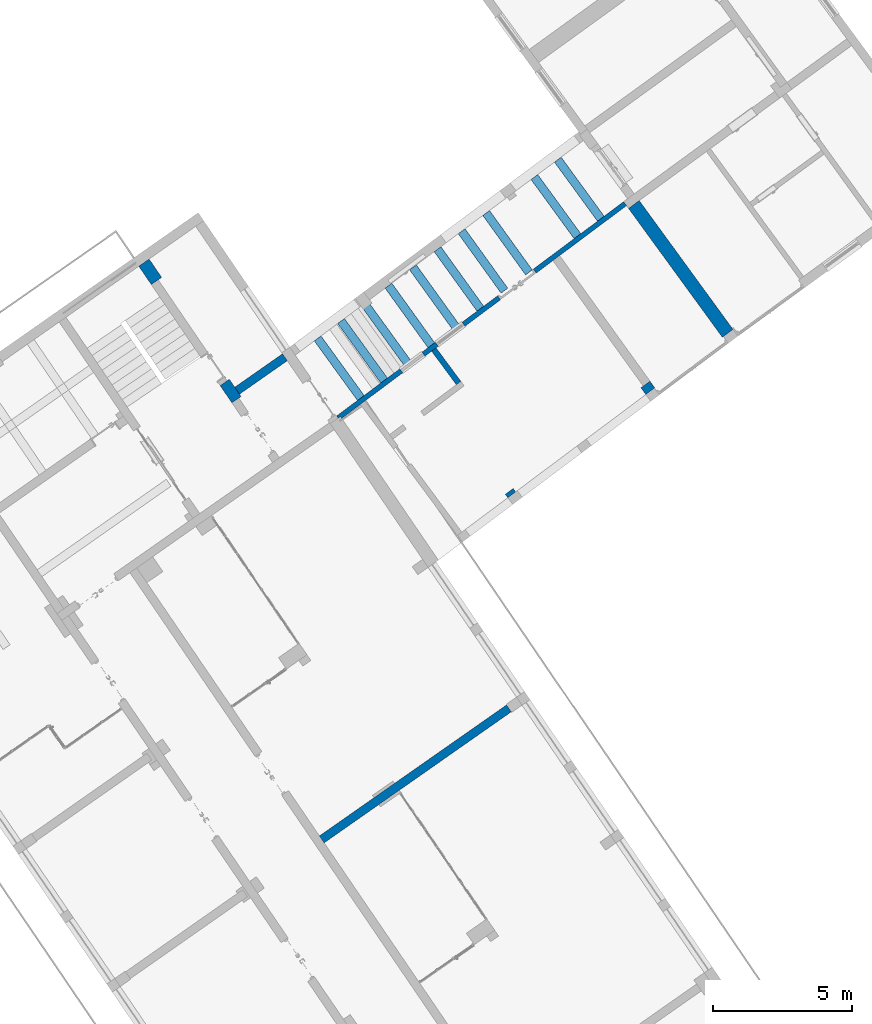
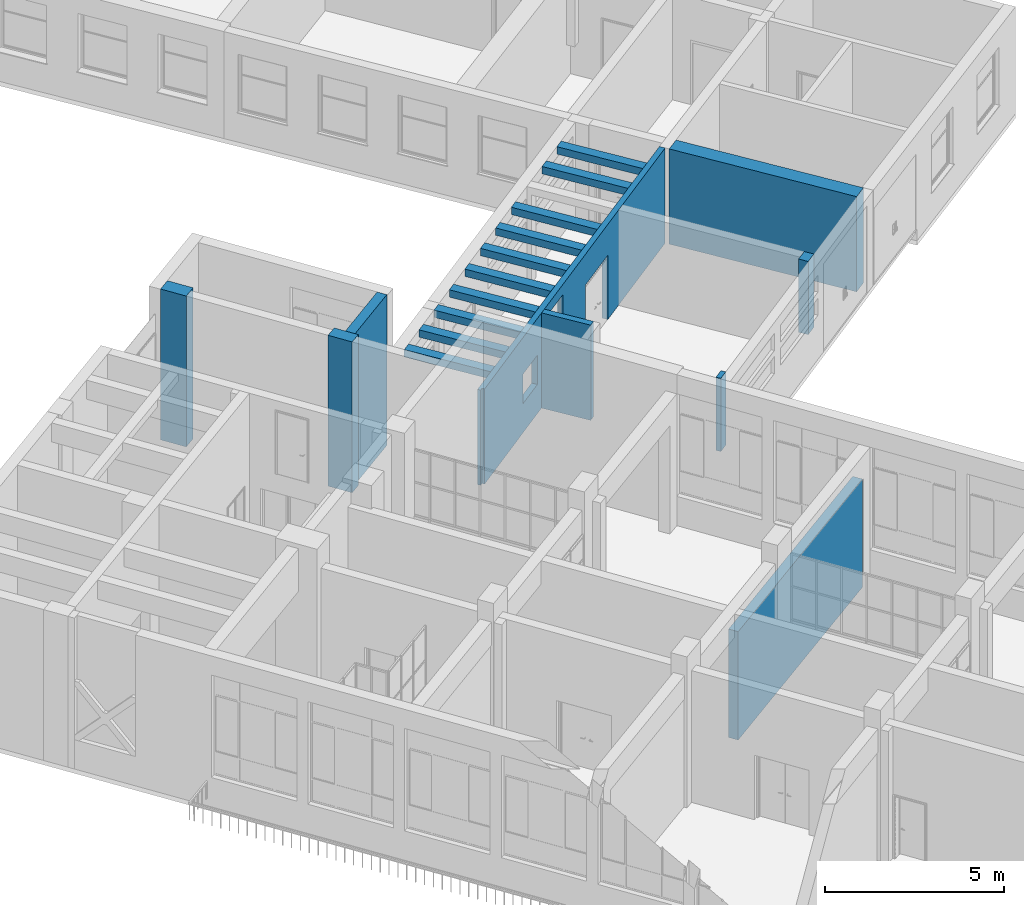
# One storey, part 98 of 157: 19 walls, 3 openings.
"""IFC2X3 building model written with IfcOpenShell, lengths in millimetres."""

from ifc_helpers import new_model, entity, si_unit, converted_unit, derived_unit, direction, frame, frame_2d, origin, place, context, subcontext, project, spatial, polyline, rectangle, outline, extrude, material, layer, layer_set, layer_usage, type_object, element, save


model = new_model("IFC2X3")

# Units and contexts
model_context = context("Model", 3, precision=0.01, world=origin(), true_north=direction((6.123031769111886e-17, 1.0)))
body_context = subcontext(model_context, "Body", "Model", "MODEL_VIEW")
ifc_project = project(units=[si_unit("LENGTHUNIT", "METRE", prefix="MILLI"), si_unit("AREAUNIT", "SQUARE_METRE"), si_unit("VOLUMEUNIT", "CUBIC_METRE"), converted_unit("PLANEANGLEUNIT", "DEGREE", entity("IfcRatioMeasure", 0.017453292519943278), si_unit("PLANEANGLEUNIT", "RADIAN"), dimensions=[0, 0, 0, 0, 0, 0, 0]), si_unit("MASSUNIT", "GRAM", prefix="KILO"), derived_unit("MASSDENSITYUNIT", [(si_unit("MASSUNIT", "GRAM", prefix="KILO"), 1), (si_unit("LENGTHUNIT", "METRE"), -3)]), derived_unit("MOMENTOFINERTIAUNIT", [(si_unit("LENGTHUNIT", "METRE"), 4)]), si_unit("TIMEUNIT", "SECOND"), si_unit("FREQUENCYUNIT", "HERTZ"), si_unit("THERMODYNAMICTEMPERATUREUNIT", "DEGREE_CELSIUS"), derived_unit("THERMALTRANSMITTANCEUNIT", [(si_unit("MASSUNIT", "GRAM", prefix="KILO"), 1), (si_unit("THERMODYNAMICTEMPERATUREUNIT", "KELVIN"), -1), (si_unit("TIMEUNIT", "SECOND"), -3)]), derived_unit("THERMALCONDUCTANCEUNIT", [(si_unit("MASSUNIT", "GRAM", prefix="KILO"), 1), (si_unit("LENGTHUNIT", "METRE"), 1), (si_unit("THERMODYNAMICTEMPERATUREUNIT", "KELVIN"), -1), (si_unit("TIMEUNIT", "SECOND"), -3)]), derived_unit("VOLUMETRICFLOWRATEUNIT", [(si_unit("LENGTHUNIT", "METRE"), 3), (si_unit("TIMEUNIT", "SECOND"), -1)]), derived_unit("MASSFLOWRATEUNIT", [(si_unit("MASSUNIT", "GRAM", prefix="KILO"), 1), (si_unit("TIMEUNIT", "SECOND"), -1)]), derived_unit("ROTATIONALFREQUENCYUNIT", [(si_unit("TIMEUNIT", "SECOND"), -1)]), si_unit("ELECTRICCURRENTUNIT", "AMPERE"), si_unit("ELECTRICVOLTAGEUNIT", "VOLT"), si_unit("POWERUNIT", "WATT"), converted_unit("FORCEUNIT", "KIP", entity("IfcRatioMeasure", 2.088543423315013e-05), si_unit("FORCEUNIT", "NEWTON"), dimensions=[1, 1, -2, 0, 0, 0, 0]), si_unit("ILLUMINANCEUNIT", "LUX"), si_unit("LUMINOUSFLUXUNIT", "LUMEN"), si_unit("LUMINOUSINTENSITYUNIT", "CANDELA"), derived_unit("USERDEFINED", [(si_unit("MASSUNIT", "GRAM", prefix="KILO"), -1), (si_unit("LENGTHUNIT", "METRE"), -2), (si_unit("TIMEUNIT", "SECOND"), 3), (si_unit("LUMINOUSFLUXUNIT", "LUMEN"), 1)]), derived_unit("USERDEFINED", [(si_unit("MASSUNIT", "GRAM", prefix="KILO"), 1), (si_unit("LENGTHUNIT", "METRE"), 3), (si_unit("TIMEUNIT", "SECOND"), -3), (si_unit("ELECTRICCURRENTUNIT", "AMPERE"), -2)]), derived_unit("USERDEFINED", [(si_unit("LENGTHUNIT", "METRE"), 2), (si_unit("TIMEUNIT", "SECOND"), -2)]), derived_unit("SOUNDPOWERUNIT", [(si_unit("MASSUNIT", "GRAM", prefix="KILO"), 1), (si_unit("LENGTHUNIT", "METRE"), 2), (si_unit("TIMEUNIT", "SECOND"), -3)]), derived_unit("SOUNDPRESSUREUNIT", [(si_unit("MASSUNIT", "GRAM", prefix="KILO"), 1), (si_unit("LENGTHUNIT", "METRE"), -1), (si_unit("TIMEUNIT", "SECOND"), -2)]), derived_unit("LINEARVELOCITYUNIT", [(si_unit("LENGTHUNIT", "METRE"), 1), (si_unit("TIMEUNIT", "SECOND"), -1)]), si_unit("PRESSUREUNIT", "PASCAL"), derived_unit("USERDEFINED", [(si_unit("LENGTHUNIT", "METRE"), -2), (si_unit("MASSUNIT", "GRAM", prefix="KILO"), 1), (si_unit("TIMEUNIT", "SECOND"), -2)]), derived_unit("LINEARFORCEUNIT", [(si_unit("MASSUNIT", "GRAM", prefix="KILO"), 1), (si_unit("LENGTHUNIT", "METRE"), 1), (si_unit("TIMEUNIT", "SECOND"), -2), (si_unit("LENGTHUNIT", "METRE"), -1)]), derived_unit("PLANARFORCEUNIT", [(si_unit("MASSUNIT", "GRAM", prefix="KILO"), 1), (si_unit("LENGTHUNIT", "METRE"), 1), (si_unit("TIMEUNIT", "SECOND"), -2), (si_unit("LENGTHUNIT", "METRE"), -2)]), derived_unit("SPECIFICHEATCAPACITYUNIT", [(si_unit("LENGTHUNIT", "METRE"), 2), (si_unit("TIMEUNIT", "SECOND"), -2), (si_unit("THERMODYNAMICTEMPERATUREUNIT", "KELVIN"), -1)]), derived_unit("VAPORPERMEABILITYUNIT", [(si_unit("TIMEUNIT", "SECOND"), 1), (si_unit("LENGTHUNIT", "METRE"), -1)]), derived_unit("DYNAMICVISCOSITYUNIT", [(si_unit("MASSUNIT", "GRAM", prefix="KILO"), 1), (si_unit("LENGTHUNIT", "METRE"), -1), (si_unit("TIMEUNIT", "SECOND"), -1)]), derived_unit("THERMALEXPANSIONCOEFFICIENTUNIT", [(si_unit("THERMODYNAMICTEMPERATUREUNIT", "KELVIN"), -1)])], contexts=[model_context])

# Site, building, storey
site_placement = place(None, frame((0.0, 0.0, 0.0), z_axis=(0.0, 0.0, 1.0), x_axis=(0.8191520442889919, 0.5735764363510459, 0.0)))
site = spatial("IfcSite", under=ifc_project, at=site_placement, Name="Default", CompositionType="ELEMENT")
building_placement = place(site_placement, origin())
building = spatial("IfcBuilding", under=site, at=building_placement, CompositionType="ELEMENT")
storey_placement = place(building_placement, origin())
storey = spatial("IfcBuildingStorey", under=building, at=storey_placement, Name="1.EG +0.00", CompositionType="ELEMENT", Elevation=-4.331468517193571e-12)

# Walls
ifc_material = material(Name="Analytical Wall Surface_CJC")
ifc_layer_1 = layer(ifc_material, 300.0)
ifc_layer_set_1 = layer_set([ifc_layer_1], Name="Basic Wall:Wand_Innen_30")
ifc_layer_usage_1 = layer_usage(ifc_layer_set_1, "AXIS2", "NEGATIVE", 150.0)
wall_type_1 = type_object("IfcWallType", Name="Basic Wall:Wand_Innen_30", PredefinedType="STANDARD", material=ifc_layer_set_1)
wall_1_placement = place(storey_placement, frame((-205089.693957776, 151996.35891435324, 0.0), z_axis=(0.0, 0.0, 1.0), x_axis=(-1.0, 0.0, 0.0)))
element("IfcWallStandardCase", 1, at=wall_1_placement, inside=storey, type_object=wall_type_1, material=ifc_layer_usage_1, Name="Basic Wall:Wand_Innen_30", ObjectType="Basic Wall:Wand_Innen_30", context=body_context, shape_type="SweptSolid", body=[
    extrude(outline(polyline([(8218.819686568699, -150.0), (8222.638872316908, 150.0), (5820.486186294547, 150.0), (4920.486186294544, 150.0), (0.0, 150.0), (0.0, -150.0), (4920.486186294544, -150.0), (5820.486186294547, -150.0), (8218.819686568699, -150.0)])), origin(), (0.0, 0.0, 1.0), 3700.0000000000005),
])
wall_2_placement = place(storey_placement, frame((-206546.13066814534, 166971.3589143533, 0.0)))
element("IfcWallStandardCase", 2, at=wall_2_placement, inside=storey, type_object=wall_type_1, material=ifc_layer_usage_1, Name="Basic Wall:Wand_Innen_30", ObjectType="Basic Wall:Wand_Innen_30", context=body_context, shape_type="SweptSolid", body=[
    extrude(outline(polyline([(2100.1539589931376, -150.0), (2103.973144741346, 150.0), (3.8191857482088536, 150.0), (0.0, -150.0), (2100.1539589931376, -150.0)])), origin(), (0.0, 0.0, 1.0), 5150.000000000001),
])
wall_3_placement = place(storey_placement, frame((-199879.91954840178, 164298.752209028, 2250.0), z_axis=(0.0, 0.0, 1.0), x_axis=(-0.012978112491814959, 0.999915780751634, 0.0)))
element("IfcWallStandardCase", 3, at=wall_3_placement, inside=storey, type_object=wall_type_1, material=ifc_layer_usage_1, Name="Basic Wall:Wand_Innen_30", ObjectType="Basic Wall:Wand_Innen_30", context=body_context, shape_type="SweptSolid", body=[
    extrude(outline(polyline([(2646.934192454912, -150.0), (2642.080494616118, 150.0), (0.0, 150.0), (5.283655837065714, -150.0), (2646.934192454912, -150.0)])), origin(), (0.0, 0.0, 1.0), 250.00000000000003),
])
wall_4_placement = place(storey_placement, frame((-198780.2636198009, 164332.39990589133, 2250.0), z_axis=(0.0, 0.0, 1.0), x_axis=(-0.01297811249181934, 0.999915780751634, 0.0)))
element("IfcWallStandardCase", 4, at=wall_4_placement, inside=storey, type_object=wall_type_1, material=ifc_layer_usage_1, Name="Basic Wall:Wand_Innen_30", ObjectType="Basic Wall:Wand_Innen_30", context=body_context, shape_type="SweptSolid", body=[
    extrude(outline(polyline([(2645.357679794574, -150.0), (2640.503981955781, 150.0), (0.0, 150.0), (5.283655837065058, -150.0), (2645.357679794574, -150.0)])), origin(), (0.0, 0.0, 1.0), 250.00000000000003),
])
wall_5_placement = place(storey_placement, frame((-197680.6076912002, 164366.04760275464, 2250.0), z_axis=(0.0, 0.0, 1.0), x_axis=(-0.012978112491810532, 0.9999157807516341, 0.0)))
element("IfcWallStandardCase", 5, at=wall_5_placement, inside=storey, type_object=wall_type_1, material=ifc_layer_usage_1, Name="Basic Wall:Wand_Innen_30", ObjectType="Basic Wall:Wand_Innen_30", context=body_context, shape_type="SweptSolid", body=[
    extrude(outline(polyline([(2643.781167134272, -150.0), (2638.9274692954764, 150.0), (0.0, 150.0), (5.283655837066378, -150.0), (2643.781167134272, -150.0)])), origin(), (0.0, 0.0, 1.0), 250.00000000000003),
])
wall_6_placement = place(storey_placement, frame((-196599.27873164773, 164399.13452393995, 2250.0), z_axis=(0.0, 0.0, 1.0), x_axis=(-0.012978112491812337, 0.9999157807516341, 0.0)))
element("IfcWallStandardCase", 6, at=wall_6_placement, inside=storey, type_object=wall_type_1, material=ifc_layer_usage_1, Name="Basic Wall:Wand_Innen_30", ObjectType="Basic Wall:Wand_Innen_30", context=body_context, shape_type="SweptSolid", body=[
    extrude(outline(polyline([(2642.230928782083, -150.0), (2637.377230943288, 150.0), (0.0, 150.0), (5.2836558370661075, -150.0), (2642.230928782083, -150.0)])), origin(), (0.0, 0.0, 1.0), 250.00000000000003),
])
wall_7_placement = place(storey_placement, frame((-195499.62280304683, 164432.7822208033, 2250.0), z_axis=(0.0, 0.0, 1.0), x_axis=(-0.012978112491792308, 0.9999157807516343, 0.0)))
element("IfcWallStandardCase", 7, at=wall_7_placement, inside=storey, type_object=wall_type_1, material=ifc_layer_usage_1, Name="Basic Wall:Wand_Innen_30", ObjectType="Basic Wall:Wand_Innen_30", context=body_context, shape_type="SweptSolid", body=[
    extrude(outline(polyline([(2640.6544161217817, -150.0), (2635.8007182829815, 150.0), (0.0, 150.0), (5.283655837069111, -150.0), (2640.6544161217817, -150.0)])), origin(), (0.0, 0.0, 1.0), 250.00000000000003),
])
wall_8_placement = place(storey_placement, frame((-193321.380920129, 164500.26756854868, 2250.0), z_axis=(0.0, 0.0, 1.0), x_axis=(-0.018539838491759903, 0.999828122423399, 0.0)))
element("IfcWallStandardCase", 8, at=wall_8_placement, inside=storey, type_object=wall_type_1, material=ifc_layer_usage_1, Name="Basic Wall:Wand_Innen_30", ObjectType="Basic Wall:Wand_Innen_30", context=body_context, shape_type="SweptSolid", body=[
    extrude(outline(polyline([(2635.6663654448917, -150.0), (2632.4816985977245, 150.0), (0.0, 150.0), (3.6145573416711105, -150.0), (2635.6663654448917, -150.0)])), origin(), (0.0, 0.0, 1.0), 250.00000000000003),
])
wall_9_placement = place(storey_placement, frame((-192271.79593816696, 164532.38317524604, 2250.0), z_axis=(0.0, 0.0, 1.0), x_axis=(-0.0185398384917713, 0.9998281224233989, 0.0)))
element("IfcWallStandardCase", 9, at=wall_9_placement, inside=storey, type_object=wall_type_1, material=ifc_layer_usage_1, Name="Basic Wall:Wand_Innen_30", ObjectType="Basic Wall:Wand_Innen_30", context=body_context, shape_type="SweptSolid", body=[
    extrude(outline(polyline([(2634.1617487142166, -150.0), (2630.9770818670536, 150.0), (0.0, 150.0), (3.6145573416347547, -150.0), (2634.1617487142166, -150.0)])), origin(), (0.0, 0.0, 1.0), 250.00000000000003),
])
wall_10_placement = place(storey_placement, frame((-200950.7591022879, 164266.36423794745, 2250.0), z_axis=(0.0, 0.0, 1.0), x_axis=(-0.015496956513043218, 0.9998799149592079, 0.0)))
element("IfcWallStandardCase", 10, at=wall_10_placement, inside=storey, type_object=wall_type_1, material=ifc_layer_usage_1, Name="Basic Wall:Wand_Innen_30", ObjectType="Basic Wall:Wand_Innen_30", context=body_context, shape_type="SweptSolid", body=[
    extrude(outline(polyline([(2647.6141337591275, -150.0), (2643.5163345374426, 150.0), (2493.5023418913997, 150.0), (0.0, 150.0), (4.527723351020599, -150.0), (2497.600141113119, -150.0), (2647.6141337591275, -150.0)])), origin(), (0.0, 0.0, 1.0), 250.00000000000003),
])
wall_11_placement = place(storey_placement, frame((-202000.38794175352, 164234.24168253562, 2250.0), z_axis=(0.0, 0.0, 1.0), x_axis=(-0.015459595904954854, 0.9998804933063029, 0.0)))
element("IfcWallStandardCase", 11, at=wall_11_placement, inside=storey, type_object=wall_type_1, material=ifc_layer_usage_1, Name="Basic Wall:Wand_Innen_30", ObjectType="Basic Wall:Wand_Innen_30", context=body_context, shape_type="SweptSolid", body=[
    extrude(outline(polyline([(2649.131432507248, -150.0), (2645.0224216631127, 150.0), (0.0, 150.0), (4.538935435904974, -150.0), (2649.131432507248, -150.0)])), origin(), (0.0, 0.0, 1.0), 250.00000000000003),
])
wall_12_placement = place(storey_placement, frame((-203048.146238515, 164202.29500699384, 2250.0), z_axis=(0.0, 0.0, 1.0), x_axis=(-0.016212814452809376, 0.9998685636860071, 0.0)))
element("IfcWallStandardCase", 12, at=wall_12_placement, inside=storey, type_object=wall_type_1, material=ifc_layer_usage_1, Name="Basic Wall:Wand_Innen_30", ObjectType="Basic Wall:Wand_Innen_30", context=body_context, shape_type="SweptSolid", body=[
    extrude(outline(polyline([(2650.380894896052, -150.0), (2646.4979180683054, 150.0), (0.0, 150.0), (4.312892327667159, -150.0), (2650.380894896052, -150.0)])), origin(), (0.0, 0.0, 1.0), 250.00000000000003),
])
ifc_layer_2 = layer(ifc_material, 350.0)
ifc_layer_set_2 = layer_set([ifc_layer_2], Name="Basic Wall:Wand_Innen_35")
ifc_layer_usage_2 = layer_usage(ifc_layer_set_2, "AXIS2", "POSITIVE", -175.0)
wall_type_2 = type_object("IfcWallType", Name="Basic Wall:Wand_Innen_35", PredefinedType="STANDARD", material=ifc_layer_set_2)
wall_13_placement = place(storey_placement, frame((-200599.33209822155, 158384.42775863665, 0.0), z_axis=(0.0, 0.0, 1.0), x_axis=(0.031234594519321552, -0.9995120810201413, 0.0)))
element("IfcWallStandardCase", 13, at=wall_13_placement, inside=storey, type_object=wall_type_2, material=ifc_layer_usage_2, Name="Basic Wall:Wand_Innen_35", ObjectType="Basic Wall:Wand_Innen_35", context=body_context, shape_type="SweptSolid", body=[
    extrude(rectangle(XDim=149.9999999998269, YDim=349.9999999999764, at=frame_2d((74.99999999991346, 5.5280224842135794e-12), x_axis=(-1.0, 0.0))), origin(), (0.0, 0.0, 1.0), 2500.0),
])
ifc_layer_3 = layer(ifc_material, 400.0)
ifc_layer_set_3 = layer_set([ifc_layer_3], Name="Basic Wall:Wand_Innen_40")
ifc_layer_usage_3 = layer_usage(ifc_layer_set_3, "AXIS2", "NEGATIVE", 200.0)
wall_type_3 = type_object("IfcWallType", Name="Basic Wall:Wand_Innen_40", PredefinedType="STANDARD", material=ifc_layer_set_3)
wall_14_placement = place(storey_placement, frame((-206747.41993627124, 166721.3589143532, 0.0), z_axis=(0.0, 0.0, 1.0), x_axis=(0.012729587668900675, 0.9999189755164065, 0.0)))
element("IfcWallStandardCase", 14, at=wall_14_placement, inside=storey, type_object=wall_type_3, material=ifc_layer_usage_3, Name="Basic Wall:Wand_Innen_40", ObjectType="Basic Wall:Wand_Innen_40", context=body_context, shape_type="SweptSolid", body=[
    extrude(rectangle(XDim=750.0607732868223, YDim=400.00000000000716, at=frame_2d((375.03038664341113, 4.121147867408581e-13), x_axis=(-1.0, 0.0))), origin(), (0.0, 0.0, 1.0), 5150.000000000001),
])
ifc_layer_usage_4 = layer_usage(ifc_layer_set_3, "AXIS2", "POSITIVE", -200.0)
wall_15_placement = place(storey_placement, frame((-194377.8044500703, 158726.131985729, 0.0), z_axis=(0.0, 0.0, 1.0), x_axis=(0.01729141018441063, -0.9998504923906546, 0.0)))
element("IfcWallStandardCase", 15, at=wall_15_placement, inside=storey, type_object=wall_type_3, material=ifc_layer_usage_4, Name="Basic Wall:Wand_Innen_40", ObjectType="Basic Wall:Wand_Innen_40", context=body_context, shape_type="SweptSolid", body=[
    extrude(outline(polyline([(300.0291818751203, -200.0), (294.44985867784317, 200.0), (1.2840661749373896, 200.0), (0.0, 200.0), (0.0, -97.66323427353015), (0.0, -200.0), (300.0291818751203, -200.0)])), origin(), (0.0, 0.0, 1.0), 2500.0),
])
ifc_layer_4 = layer(ifc_material, 200.0)
ifc_layer_set_4 = layer_set([ifc_layer_4], Name="Basic Wall:Wand_Innen_20")
ifc_layer_usage_5 = layer_usage(ifc_layer_set_4, "AXIS2", "NEGATIVE", 100.0)
wall_type_4 = type_object("IfcWallType", Name="Basic Wall:Wand_Innen_20", PredefinedType="STANDARD", material=ifc_layer_set_4)
wall_16_placement = place(storey_placement, frame((-199855.60612558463, 162625.92426949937, -750.0), z_axis=(0.0, 0.0, 1.0), x_axis=(-0.026281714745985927, 0.9996545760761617, 0.0)))
element("IfcWallStandardCase", 16, at=wall_16_placement, inside=storey, type_object=wall_type_4, material=ifc_layer_usage_5, Name="Basic Wall:Wand_Innen_20", ObjectType="Basic Wall:Wand_Innen_20", context=body_context, shape_type="SweptSolid", body=[
    extrude(outline(polyline([(1500.8747195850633, -100.0), (1500.0138940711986, 100.0), (0.0, 100.0), (0.8608255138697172, -100.0), (1500.8747195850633, -100.0)])), origin(), (0.0, 0.0, 1.0), 3250.0),
])
ifc_layer_5 = layer(ifc_material, 450.00000000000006)
ifc_layer_set_5 = layer_set([ifc_layer_5], Name="Basic Wall:Wand_Innen_45")
ifc_layer_usage_6 = layer_usage(ifc_layer_set_5, "AXIS2", "NEGATIVE", 225.00000000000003)
wall_type_5 = type_object("IfcWallType", Name="Basic Wall:Wand_Innen_45", PredefinedType="STANDARD", material=ifc_layer_set_5)
wall_17_placement = place(storey_placement, frame((-206656.8531960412, 171871.3589143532, 0.0), z_axis=(0.0, 0.0, 1.0), x_axis=(0.012729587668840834, 0.9999189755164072, 0.0)))
element("IfcWallStandardCase", 17, at=wall_17_placement, inside=storey, type_object=wall_type_5, material=ifc_layer_usage_6, Name="Basic Wall:Wand_Innen_45", ObjectType="Basic Wall:Wand_Innen_45", context=body_context, shape_type="SweptSolid", body=[
    extrude(outline(polyline([(802.9292141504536, -225.0), (797.2004355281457, 225.0), (0.0, 225.0), (0.0, -74.96961581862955), (0.0, -225.0), (802.9292141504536, -225.0)])), origin(), (0.0, 0.0, 1.0), 5150.000000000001),
])
ifc_layer_6 = layer(ifc_material, 475.00000000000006)
ifc_layer_set_6 = layer_set([ifc_layer_6], Name="Basic Wall:Wand_Innen_47.5")
ifc_layer_usage_7 = layer_usage(ifc_layer_set_6, "AXIS2", "NEGATIVE", 237.50000000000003)
wall_type_6 = type_object("IfcWallType", Name="Basic Wall:Wand_Innen_47.5", PredefinedType="STANDARD", material=ifc_layer_set_6)
wall_18_placement = place(storey_placement, frame((-190897.81828459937, 158534.50965594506, -750.0), z_axis=(0.0, 0.0, 1.0), x_axis=(-0.018546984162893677, 0.9998279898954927, 0.0)))
element("IfcWallStandardCase", 18, at=wall_18_placement, inside=storey, type_object=wall_type_6, material=ifc_layer_usage_7, Name="Basic Wall:Wand_Innen_47.5", ObjectType="Basic Wall:Wand_Innen_47.5", context=body_context, shape_type="SweptSolid", body=[
    extrude(outline(polyline([(5738.870136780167, -237.49999999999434), (5738.581746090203, 62.50087820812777), (5738.413519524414, 237.49999999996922), (0.0, 237.4999999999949), (6.0288469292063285, -237.50000000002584), (49.91754259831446, -237.4999999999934), (5738.870136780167, -237.49999999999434)])), origin(), (0.0, 0.0, 1.0), 3250.0),
])

# Wall, openings
ifc_layer_7 = layer(ifc_material, 175.0)
ifc_layer_set_7 = layer_set([ifc_layer_7], Name="Basic Wall:Wand_Innen_17.5")
ifc_layer_usage_8 = layer_usage(ifc_layer_set_7, "AXIS2", "NEGATIVE", 87.5)
wall_type_7 = type_object("IfcWallType", Name="Basic Wall:Wand_Innen_17.5", PredefinedType="STANDARD", material=ifc_layer_set_7)
wall_19_placement = place(storey_placement, frame((-204127.0083827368, 164083.89984704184, -750.0), z_axis=(0.0, 0.0, 1.0), x_axis=(0.9995321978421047, 0.03058407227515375, 0.0)))
wall_19 = element("IfcWallStandardCase", 19, at=wall_19_placement, inside=storey, type_object=wall_type_7, material=ifc_layer_usage_8, Name="Basic Wall:Wand_Innen_17.5", ObjectType="Basic Wall:Wand_Innen_17.5", context=body_context, shape_type="SweptSolid", body=[
    extrude(outline(polyline([(92.5002583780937, -87.50000000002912), (12888.477915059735, -87.49999999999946), (12888.47791505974, 87.50000000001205), (0.0, 87.49999999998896), (-4.121258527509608, -7.57841471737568), (95.87067545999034, -9.743676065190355), (92.5002583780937, -87.50000000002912)])), origin(), (0.0, 0.0, 1.0), 3250.000000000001),
])
opening_1_placement = place(wall_19_placement, frame((8828.477915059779, 87.5000000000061, 0.0)))
element("IfcOpeningElement", 20, at=opening_1_placement, cuts=wall_19, Name="M_Door-Passage-Double-Flush:150x210:1", ObjectType="Opening", context=body_context, shape_type="SweptSolid", body=[
    extrude(rectangle(XDim=2200.0, YDim=1599.999999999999, at=frame_2d((1100.0, 799.9999999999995), x_axis=(1.0, 0.0))), frame((0.0, 0.0, 0.0), z_axis=(0.0, -1.0, 0.0), x_axis=(0.0, 0.0, 1.0)), (0.0, 0.0, 1.0), 175.0),
])
opening_2_placement = place(wall_19_placement, frame((2832.0113738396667, -87.5000000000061, 1000.0)))
element("IfcOpeningElement", 21, at=opening_2_placement, cuts=wall_19, Name="Windows_Sgl_Plain:100x100:1", ObjectType="Opening", context=body_context, shape_type="SweptSolid", body=[
    extrude(rectangle(XDim=1000.0000000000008, YDim=1000.0000000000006, at=frame_2d((500.0000000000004, 500.000000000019), x_axis=(-1.0, 0.0))), frame((0.0, 0.0, 0.0), z_axis=(0.0, 1.0, 0.0), x_axis=(0.0, 0.0, 1.0)), (0.0, 0.0, 1.0), 175.0),
])
opening_3_placement = place(wall_19_placement, frame((4432.011373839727, -87.50000000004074, 1500.0)))
element("IfcOpeningElement", 22, at=opening_3_placement, cuts=wall_19, Name="Windows_Sgl_Plain:120x140:1", ObjectType="Opening", context=body_context, shape_type="SweptSolid", body=[
    extrude(rectangle(XDim=1400.000000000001, YDim=1200.0000000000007, at=frame_2d((700.0000000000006, 600.000000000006), x_axis=(-1.0, 0.0))), frame((0.0, 0.0, 0.0), z_axis=(0.0, 1.0, 0.0), x_axis=(0.0, 0.0, 1.0)), (0.0, 0.0, 1.0), 175.0),
])

save(model, "model.ifc")
